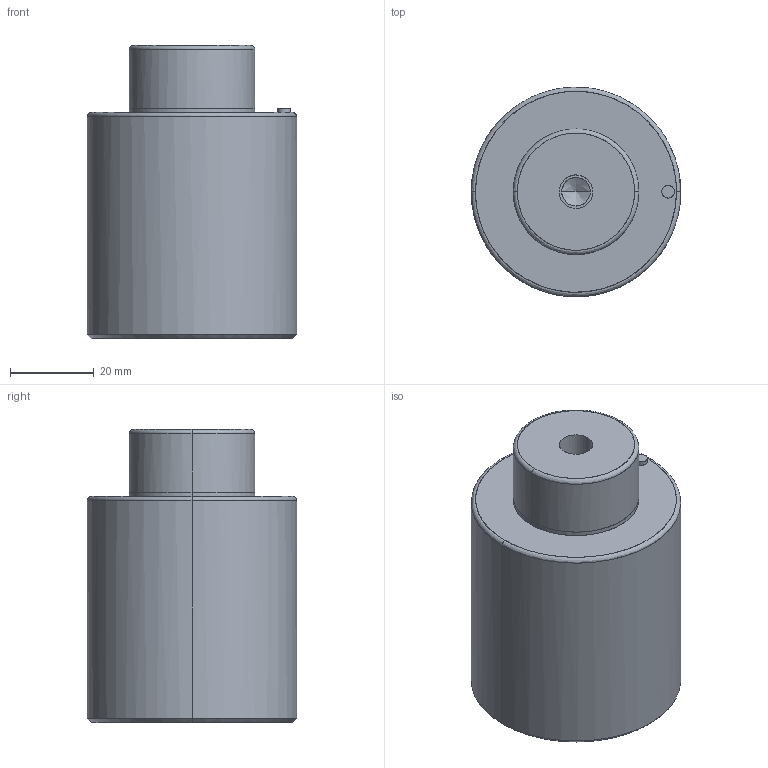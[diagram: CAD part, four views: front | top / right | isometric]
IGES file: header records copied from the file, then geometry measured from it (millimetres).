
Global section: file name: E:\UnigraphicsGraphicData\MISUMI_PRESS-PARTS\IGES\3d_gsc50-15_03826_r00.igs; native system: NX V5.0; preprocessor: UGS NX IGES V5.0; author: MISUMI; date: 20110105.160748; units: millimetre
Bounding box: 50 x 49.99 x 70 mm (x, y, z)
Surface area: 14610.2 mm2 (no closed solid volume)
Topology: 0 solids, 0 shells, 32 faces, 232 edges, 228 vertices
Faces by surface type: bspline 32
